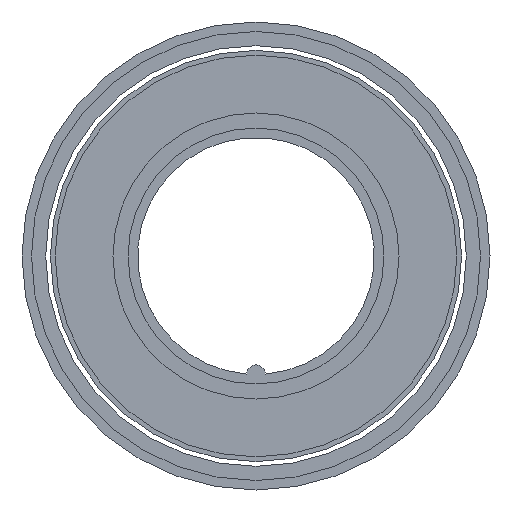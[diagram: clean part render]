
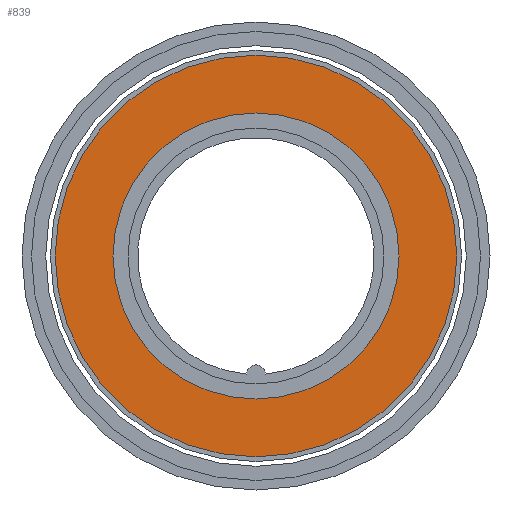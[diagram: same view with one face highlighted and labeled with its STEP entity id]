
A CAD part, front view. The second image highlights one B-rep face of the part: STEP entity #839.
In plain terms, the highlighted planar face has unit normal (0, -1, 0).
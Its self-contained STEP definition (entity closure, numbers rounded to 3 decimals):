
#57 = CIRCLE ( 'NONE', #376, 21.2 ) ;
#164 = CARTESIAN_POINT ( 'NONE',  ( 0., -2.5, 21.2 ) ) ;
#209 = DIRECTION ( 'NONE',  ( 0., 0., 1. ) ) ;
#217 = AXIS2_PLACEMENT_3D ( 'NONE', #1304, #299, #1272 ) ;
#238 = DIRECTION ( 'NONE',  ( 0., -1., 0. ) ) ;
#249 = EDGE_CURVE ( 'NONE', #1413, #737, #1318, .T. ) ;
#256 = EDGE_CURVE ( 'NONE', #1163, #1040, #1337, .T. ) ;
#299 = DIRECTION ( 'NONE',  ( 0., -1., 0. ) ) ;
#302 = DIRECTION ( 'NONE',  ( 0., 0., 1. ) ) ;
#303 = EDGE_LOOP ( 'NONE', ( #793, #605 ) ) ;
#320 = DIRECTION ( 'NONE',  ( 0., -1., 0. ) ) ;
#323 = CARTESIAN_POINT ( 'NONE',  ( 0., -2.5, 0. ) ) ;
#356 = AXIS2_PLACEMENT_3D ( 'NONE', #1000, #238, #1113 ) ;
#376 = AXIS2_PLACEMENT_3D ( 'NONE', #1299, #320, #754 ) ;
#514 = ORIENTED_EDGE ( 'NONE', *, *, #886, .T. ) ;
#527 = DIRECTION ( 'NONE',  ( 0., 1., 0. ) ) ;
#553 = CARTESIAN_POINT ( 'NONE',  ( 0., -2.5, -21.2 ) ) ;
#605 = ORIENTED_EDGE ( 'NONE', *, *, #256, .F. ) ;
#609 = CARTESIAN_POINT ( 'NONE',  ( 0., -2.5, -15.1 ) ) ;
#640 = FACE_BOUND ( 'NONE', #303, .T. ) ;
#694 = EDGE_LOOP ( 'NONE', ( #514, #1043 ) ) ;
#737 = VERTEX_POINT ( 'NONE', #164 ) ;
#754 = DIRECTION ( 'NONE',  ( 0., 0., 1. ) ) ;
#793 = ORIENTED_EDGE ( 'NONE', *, *, #1023, .F. ) ;
#798 = CARTESIAN_POINT ( 'NONE',  ( 0., -2.5, 15.1 ) ) ;
#839 = ADVANCED_FACE ( 'NONE', ( #864, #640 ), #1065, .F. ) ;
#853 = AXIS2_PLACEMENT_3D ( 'NONE', #1281, #527, #302 ) ;
#864 = FACE_OUTER_BOUND ( 'NONE', #694, .T. ) ;
#886 = EDGE_CURVE ( 'NONE', #737, #1413, #57, .T. ) ;
#1000 = CARTESIAN_POINT ( 'NONE',  ( 0., -2.5, 0. ) ) ;
#1023 = EDGE_CURVE ( 'NONE', #1040, #1163, #1408, .T. ) ;
#1040 = VERTEX_POINT ( 'NONE', #798 ) ;
#1043 = ORIENTED_EDGE ( 'NONE', *, *, #249, .T. ) ;
#1065 = PLANE ( 'NONE',  #853 ) ;
#1113 = DIRECTION ( 'NONE',  ( 0., 0., 1. ) ) ;
#1163 = VERTEX_POINT ( 'NONE', #609 ) ;
#1266 = AXIS2_PLACEMENT_3D ( 'NONE', #323, #1278, #209 ) ;
#1272 = DIRECTION ( 'NONE',  ( 0., 0., 1. ) ) ;
#1278 = DIRECTION ( 'NONE',  ( 0., -1., 0. ) ) ;
#1281 = CARTESIAN_POINT ( 'NONE',  ( 0., -2.5, 0. ) ) ;
#1299 = CARTESIAN_POINT ( 'NONE',  ( 0., -2.5, 0. ) ) ;
#1304 = CARTESIAN_POINT ( 'NONE',  ( 0., -2.5, 0. ) ) ;
#1318 = CIRCLE ( 'NONE', #217, 21.2 ) ;
#1337 = CIRCLE ( 'NONE', #1266, 15.1 ) ;
#1408 = CIRCLE ( 'NONE', #356, 15.1 ) ;
#1413 = VERTEX_POINT ( 'NONE', #553 ) ;
